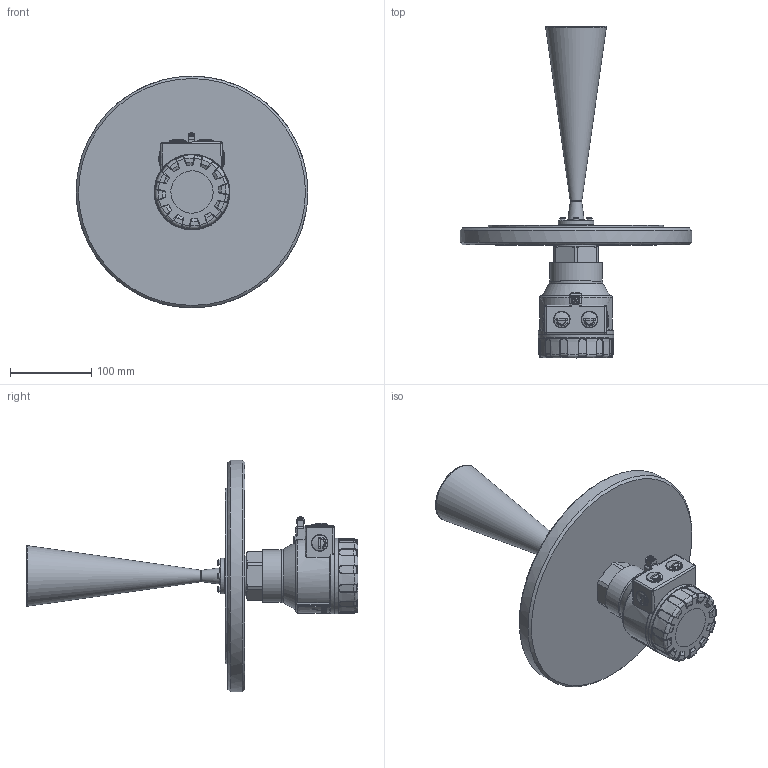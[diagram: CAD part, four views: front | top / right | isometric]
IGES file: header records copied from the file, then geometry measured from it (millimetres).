
Global section: file name: WES_180_Mű,; native system: Autodesk Inventor 2015; preprocessor: unknown; author: aantal; date: 20150306.114207; units: millimetre
Bounding box: 285 x 408.26 x 284.95 mm (x, y, z)
Volume: 2332598.3 mm3; surface area: 308424.4 mm2
Topology: 17 solids, 17 shells, 1362 faces, 3400 edges, 2117 vertices
Faces by surface type: bspline 1362
